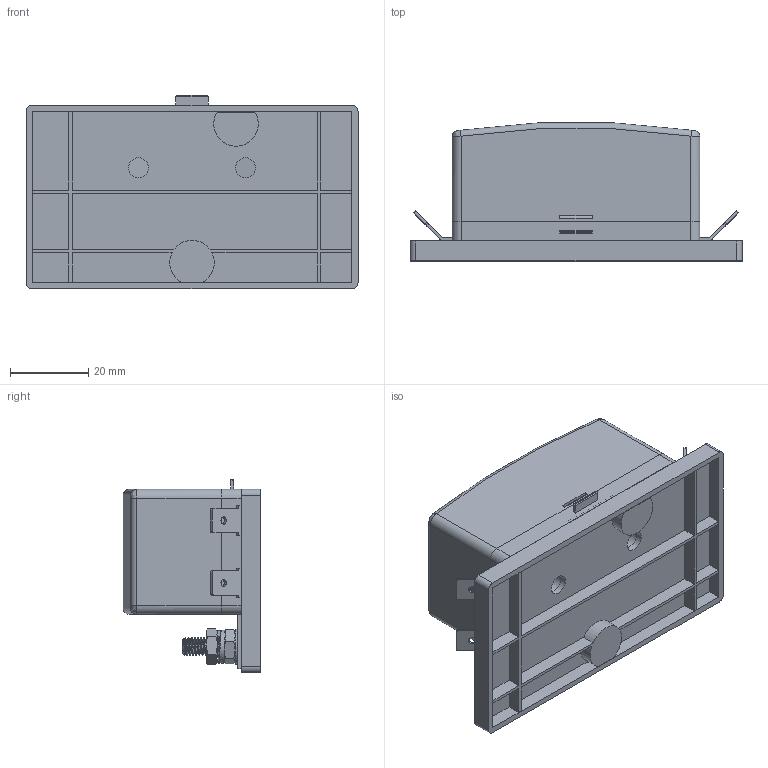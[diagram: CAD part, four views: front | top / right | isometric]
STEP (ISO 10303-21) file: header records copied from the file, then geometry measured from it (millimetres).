
FILE_DESCRIPTION(/* description */ (''),/* implementation_level */ '2;1');
FILE_NAME(/* name */ 'C:\Users\Hani\Desktop\work\BLM-I-304\BLM-304.stp',/* time_stamp */ '2021-07-07T12:03:36-07:00',/* author */ ('Hani'),/* organization */ (''),/* preprocessor_version */ 'ST-DEVELOPER v17',/* originating_system */ 'Autodesk Inventor 2019',/* authorisation */ '');
FILE_SCHEMA (('AUTOMOTIVE_DESIGN { 1 0 10303 214 3 1 1 }'));
Length unit declared in the file: inch
Products named in the file (11): BLM-304; BLR-304; BLM-304-BLOCK; plate2; STUD; WASHER; LOCK WASHER; HEX NUT; terminal; terminal_MIR1; BLR-304-Cover
Assembly tree (13 placements, depth 2):
  BLM-304
    BLR-304
    BLM-304-BLOCK
    plate2
    STUD
    WASHER
    LOCK WASHER
    HEX NUT  x2
    terminal  x2
    terminal_MIR1  x2
    BLR-304-Cover
Bounding box: 85.09 x 35.33 x 49.53 mm (x, y, z)
Volume: 45289.3 mm3; surface area: 37743.1 mm2
Topology: 13 solids, 13 shells, 793 faces, 2070 edges, 1334 vertices
Faces by surface type: plane 465, cylinder 124, bspline 115, cone 64, torus 21, sphere 4
Full cylindrical faces by diameter (mm): 1.905 x4, 3.769 x16, 3.795 x2, 4.775 x1, 4.801 x17, 4.826 x6, 4.953 x1, 5.08 x2, 5.085 x2, 8.992 x1, 9.779 x2
Entity records: 27595 total; most frequent: CARTESIAN_POINT 10031, ORIENTED_EDGE 3814, DIRECTION 3126, EDGE_CURVE 1907, LINE 1280, VECTOR 1280, VERTEX_POINT 1232, AXIS2_PLACEMENT_3D 923
